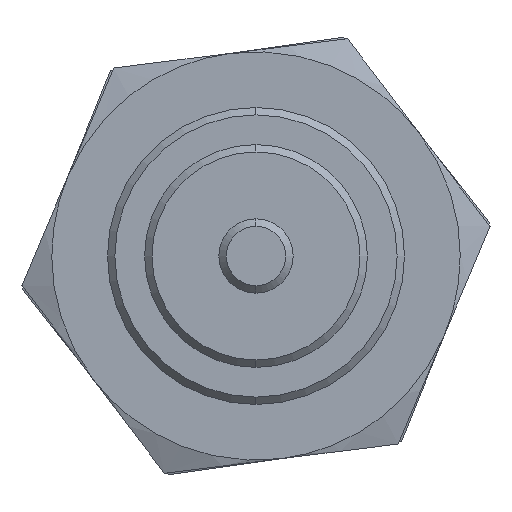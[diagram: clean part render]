
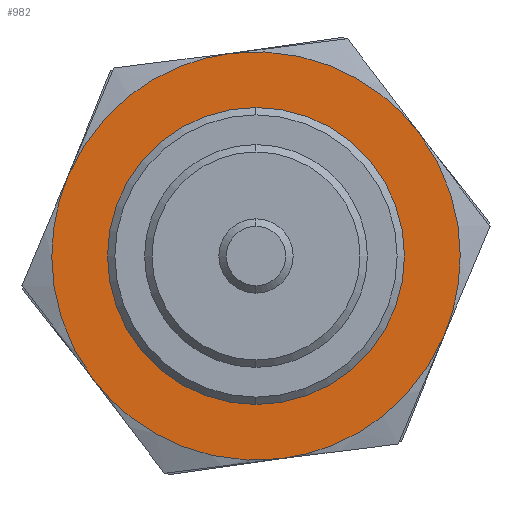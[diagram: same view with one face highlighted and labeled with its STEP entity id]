
A CAD part, left-side view. The second image highlights one B-rep face of the part: STEP entity #982.
In plain terms, the highlighted planar face has unit normal (-1, 0, 0).
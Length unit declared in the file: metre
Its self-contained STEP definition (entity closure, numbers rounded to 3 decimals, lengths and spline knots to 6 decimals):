
#34 = CARTESIAN_POINT ( 'NONE',  ( -0.001, -0.002013, -0.0055 ) ) ;
#42 = CARTESIAN_POINT ( 'NONE',  ( -0.001, -0.005566, 0.005566 ) ) ;
#54 = CARTESIAN_POINT ( 'NONE',  ( -0.001, -0.00577, -0.001007 ) ) ;
#65 = CARTESIAN_POINT ( 'NONE',  ( -0.001, 0.00577, 0.001007 ) ) ;
#76 = EDGE_LOOP ( 'NONE', ( #943, #1514 ) ) ;
#91 = CARTESIAN_POINT ( 'NONE',  ( -0.001, 0.004763, -0.00275 ) ) ;
#140 = CARTESIAN_POINT ( 'NONE',  ( -0.001, 0.004763, -0.00275 ) ) ;
#153 = ORIENTED_EDGE ( 'NONE', *, *, #1698, .F. ) ;
#197 = CARTESIAN_POINT ( 'NONE',  ( -0.001, 0., 0.0055 ) ) ;
#251 = AXIS2_PLACEMENT_3D ( 'NONE', #356, #1357, #497 ) ;
#292 = VERTEX_POINT ( 'NONE', #1410 ) ;
#349 =( BOUNDED_CURVE ( )  B_SPLINE_CURVE ( 3, ( #1619, #477, #1056, #197 ),
 .UNSPECIFIED., .F., .F. ) 
 B_SPLINE_CURVE_WITH_KNOTS ( ( 4, 4 ),
 ( 0., 0.005737 ),
 .UNSPECIFIED. ) 
 CURVE ( )  GEOMETRIC_REPRESENTATION_ITEM ( )  RATIONAL_B_SPLINE_CURVE ( ( 0.998, 0.909, 0.909, 0.998 ) ) 
 REPRESENTATION_ITEM ( '' )  );
#356 = CARTESIAN_POINT ( 'NONE',  ( -0.001, 0., 0. ) ) ;
#360 = CARTESIAN_POINT ( 'NONE',  ( -0.001, 0.004763, 0.00275 ) ) ;
#395 = EDGE_CURVE ( 'NONE', #1563, #1042, #1001, .T. ) ;
#435 = FACE_BOUND ( 'NONE', #76, .T. ) ;
#449 = CARTESIAN_POINT ( 'NONE',  ( -0.001, -0.002013, 0.0055 ) ) ;
#477 = CARTESIAN_POINT ( 'NONE',  ( -0.001, 0.003757, 0.004493 ) ) ;
#494 = ORIENTED_EDGE ( 'NONE', *, *, #967, .F. ) ;
#497 = DIRECTION ( 'NONE',  ( 0., 1., 0. ) ) ;
#551 =( BOUNDED_CURVE ( )  B_SPLINE_CURVE ( 3, ( #1756, #890, #34, #1045 ),
 .UNSPECIFIED., .F., .F. ) 
 B_SPLINE_CURVE_WITH_KNOTS ( ( 4, 4 ),
 ( 0., 0.005737 ),
 .UNSPECIFIED. ) 
 CURVE ( )  GEOMETRIC_REPRESENTATION_ITEM ( )  RATIONAL_B_SPLINE_CURVE ( ( 0.998, 0.909, 0.909, 0.998 ) ) 
 REPRESENTATION_ITEM ( '' )  );
#632 = DIRECTION ( 'NONE',  ( 1., 0., 0. ) ) ;
#649 = EDGE_CURVE ( 'NONE', #1188, #1805, #1465, .T. ) ;
#675 = EDGE_CURVE ( 'NONE', #292, #912, #1711, .T. ) ;
#707 = CARTESIAN_POINT ( 'NONE',  ( -0.001, 0., 0. ) ) ;
#721 = CIRCLE ( 'NONE', #1301, 0.0035 ) ;
#741 = CARTESIAN_POINT ( 'NONE',  ( -0.001, -0.0035, 0. ) ) ;
#755 = VERTEX_POINT ( 'NONE', #1726 ) ;
#770 = FACE_OUTER_BOUND ( 'NONE', #1333, .T. ) ;
#847 = DIRECTION ( 'NONE',  ( 0., 1., 0. ) ) ;
#869 = CARTESIAN_POINT ( 'NONE',  ( -0.001, -0.004763, 0.00275 ) ) ;
#882 = CARTESIAN_POINT ( 'NONE',  ( -0.001, -0.004763, 0.00275 ) ) ;
#890 = CARTESIAN_POINT ( 'NONE',  ( -0.001, -0.003757, -0.004493 ) ) ;
#911 = CARTESIAN_POINT ( 'NONE',  ( -0.001, -0.00577, 0.001007 ) ) ;
#912 = VERTEX_POINT ( 'NONE', #741 ) ;
#930 = VERTEX_POINT ( 'NONE', #1613 ) ;
#943 = ORIENTED_EDGE ( 'NONE', *, *, #675, .F. ) ;
#960 =( BOUNDED_CURVE ( )  B_SPLINE_CURVE ( 3, ( #1458, #449, #1738, #869 ),
 .UNSPECIFIED., .F., .F. ) 
 B_SPLINE_CURVE_WITH_KNOTS ( ( 4, 4 ),
 ( 0., 0.005737 ),
 .UNSPECIFIED. ) 
 CURVE ( )  GEOMETRIC_REPRESENTATION_ITEM ( )  RATIONAL_B_SPLINE_CURVE ( ( 1., 0.91, 0.91, 0.998 ) ) 
 REPRESENTATION_ITEM ( '' )  );
#964 =( BOUNDED_CURVE ( )  B_SPLINE_CURVE ( 3, ( #1707, #1278, #999, #140 ),
 .UNSPECIFIED., .F., .F. ) 
 B_SPLINE_CURVE_WITH_KNOTS ( ( 4, 4 ),
 ( 0., 0.005737 ),
 .UNSPECIFIED. ) 
 CURVE ( )  GEOMETRIC_REPRESENTATION_ITEM ( )  RATIONAL_B_SPLINE_CURVE ( ( 0.998, 0.909, 0.909, 0.998 ) ) 
 REPRESENTATION_ITEM ( '' )  );
#967 = EDGE_CURVE ( 'NONE', #1042, #755, #349, .T. ) ;
#982 = ADVANCED_FACE ( 'NONE', ( #435, #770 ), #1492, .F. ) ;
#999 = CARTESIAN_POINT ( 'NONE',  ( -0.001, 0.003757, -0.004493 ) ) ;
#1001 =( BOUNDED_CURVE ( )  B_SPLINE_CURVE ( 3, ( #1212, #1075, #65, #360 ),
 .UNSPECIFIED., .F., .F. ) 
 B_SPLINE_CURVE_WITH_KNOTS ( ( 4, 4 ),
 ( 0., 0.005737 ),
 .UNSPECIFIED. ) 
 CURVE ( )  GEOMETRIC_REPRESENTATION_ITEM ( )  RATIONAL_B_SPLINE_CURVE ( ( 0.998, 0.909, 0.909, 0.998 ) ) 
 REPRESENTATION_ITEM ( '' )  );
#1008 = CARTESIAN_POINT ( 'NONE',  ( -0.001, 0.004763, 0.00275 ) ) ;
#1042 = VERTEX_POINT ( 'NONE', #1008 ) ;
#1045 = CARTESIAN_POINT ( 'NONE',  ( -0.001, 0., -0.0055 ) ) ;
#1056 = CARTESIAN_POINT ( 'NONE',  ( -0.001, 0.002013, 0.0055 ) ) ;
#1065 = CARTESIAN_POINT ( 'NONE',  ( -0.001, -0.004763, -0.00275 ) ) ;
#1075 = CARTESIAN_POINT ( 'NONE',  ( -0.001, 0.00577, -0.001007 ) ) ;
#1088 = AXIS2_PLACEMENT_3D ( 'NONE', #42, #632, #1625 ) ;
#1157 = CARTESIAN_POINT ( 'NONE',  ( -0.001, -0.004763, -0.00275 ) ) ;
#1173 = ORIENTED_EDGE ( 'NONE', *, *, #1222, .F. ) ;
#1188 = VERTEX_POINT ( 'NONE', #882 ) ;
#1212 = CARTESIAN_POINT ( 'NONE',  ( -0.001, 0.004763, -0.00275 ) ) ;
#1222 = EDGE_CURVE ( 'NONE', #1805, #930, #551, .T. ) ;
#1246 = ORIENTED_EDGE ( 'NONE', *, *, #395, .F. ) ;
#1278 = CARTESIAN_POINT ( 'NONE',  ( -0.001, 0.002013, -0.0055 ) ) ;
#1301 = AXIS2_PLACEMENT_3D ( 'NONE', #707, #1717, #847 ) ;
#1333 = EDGE_LOOP ( 'NONE', ( #1173, #1551, #1401, #494, #1246, #153 ) ) ;
#1357 = DIRECTION ( 'NONE',  ( -1., 0., 0. ) ) ;
#1401 = ORIENTED_EDGE ( 'NONE', *, *, #1830, .F. ) ;
#1410 = CARTESIAN_POINT ( 'NONE',  ( -0.001, 0.0035, 0. ) ) ;
#1458 = CARTESIAN_POINT ( 'NONE',  ( -0.001, 0., 0.0055 ) ) ;
#1465 =( BOUNDED_CURVE ( )  B_SPLINE_CURVE ( 3, ( #1629, #911, #54, #1065 ),
 .UNSPECIFIED., .F., .F. ) 
 B_SPLINE_CURVE_WITH_KNOTS ( ( 4, 4 ),
 ( 0., 0.005737 ),
 .UNSPECIFIED. ) 
 CURVE ( )  GEOMETRIC_REPRESENTATION_ITEM ( )  RATIONAL_B_SPLINE_CURVE ( ( 0.998, 0.909, 0.909, 0.998 ) ) 
 REPRESENTATION_ITEM ( '' )  );
#1492 = PLANE ( 'NONE',  #1088 ) ;
#1514 = ORIENTED_EDGE ( 'NONE', *, *, #1706, .F. ) ;
#1551 = ORIENTED_EDGE ( 'NONE', *, *, #649, .F. ) ;
#1563 = VERTEX_POINT ( 'NONE', #91 ) ;
#1613 = CARTESIAN_POINT ( 'NONE',  ( -0.001, 0., -0.0055 ) ) ;
#1619 = CARTESIAN_POINT ( 'NONE',  ( -0.001, 0.004763, 0.00275 ) ) ;
#1625 = DIRECTION ( 'NONE',  ( 0., 0., -1. ) ) ;
#1629 = CARTESIAN_POINT ( 'NONE',  ( -0.001, -0.004763, 0.00275 ) ) ;
#1698 = EDGE_CURVE ( 'NONE', #930, #1563, #964, .T. ) ;
#1706 = EDGE_CURVE ( 'NONE', #912, #292, #721, .T. ) ;
#1707 = CARTESIAN_POINT ( 'NONE',  ( -0.001, 0., -0.0055 ) ) ;
#1711 = CIRCLE ( 'NONE', #251, 0.0035 ) ;
#1717 = DIRECTION ( 'NONE',  ( -1., 0., 0. ) ) ;
#1726 = CARTESIAN_POINT ( 'NONE',  ( -0.001, 0., 0.0055 ) ) ;
#1738 = CARTESIAN_POINT ( 'NONE',  ( -0.001, -0.003756, 0.004494 ) ) ;
#1756 = CARTESIAN_POINT ( 'NONE',  ( -0.001, -0.004763, -0.00275 ) ) ;
#1805 = VERTEX_POINT ( 'NONE', #1157 ) ;
#1830 = EDGE_CURVE ( 'NONE', #755, #1188, #960, .T. ) ;
